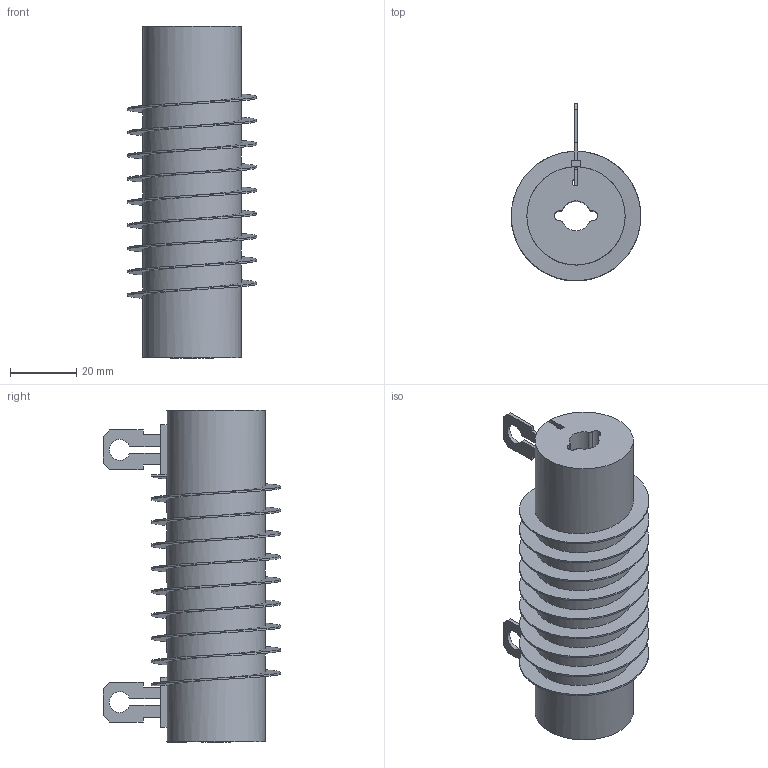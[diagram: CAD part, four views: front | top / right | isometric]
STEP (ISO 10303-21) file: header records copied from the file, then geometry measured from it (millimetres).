
FILE_DESCRIPTION(/* description */ (''),/* implementation_level */ '2;1');
FILE_NAME(/* name */ 'C:\_Vault\Dati\CATALOGO\RCPO-RSPO\RCPO-RSPO 152-420\CPO0152.stp',/* time_stamp */ '2014-01-22T16:53:06+01:00',/* author */ ('stefano'),/* organization */ (''),/* preprocessor_version */ 'ST-DEVELOPER v15.2',/* originating_system */ 'Autodesk Inventor 2014',/* authorisation */ '');
FILE_SCHEMA (('AUTOMOTIVE_DESIGN { 1 0 10303 214 3 1 1 }'));
Length unit declared in the file: millimetre
Products named in the file (1): CPO0152
Bounding box: 39 x 53.5 x 100 mm (x, y, z)
Volume: 63454.7 mm3; surface area: 25625.8 mm2
Topology: 1 solids, 1 shells, 93 faces, 282 edges, 187 vertices
Faces by surface type: plane 67, cylinder 24, bspline 2
Full cylindrical faces by diameter (mm): 29.6 x9
Entity records: 4649 total; most frequent: CARTESIAN_POINT 2145, ORIENTED_EDGE 510, DIRECTION 474, EDGE_CURVE 254, LINE 186, VECTOR 186, VERTEX_POINT 169, AXIS2_PLACEMENT_3D 144
